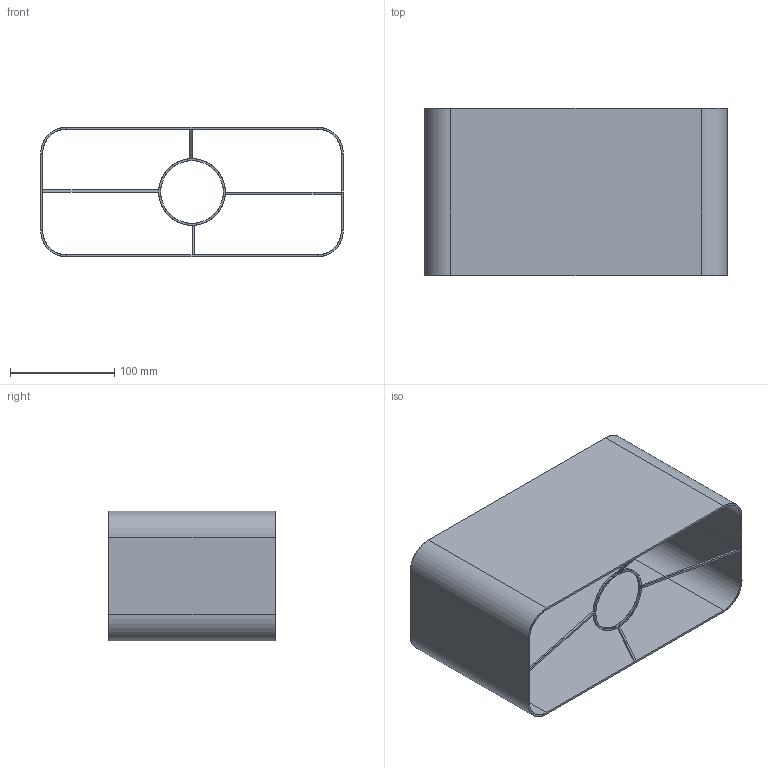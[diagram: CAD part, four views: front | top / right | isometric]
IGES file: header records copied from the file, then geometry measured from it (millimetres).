
Start section: SolidWorks IGES file using analytic representation for surfaces
Global section: file name: C:\Users\a.sempere\Desktop\PANTALLAS\A-PANTALLAS-TELA\5PANT0034B-\5PANT0034B-3D\5PANT0034B.IGS; native system: SolidWorks 2024; preprocessor: SolidWorks 2024; author: a.sempere; date: 250120.131512; units: millimetre
Bounding box: 290 x 160 x 124.54 mm (x, y, z)
Surface area: 256581.5 mm2 (no closed solid volume)
Topology: 0 solids, 0 shells, 66 faces, 752 edges, 752 vertices
Faces by surface type: bspline 54, revolution 12
